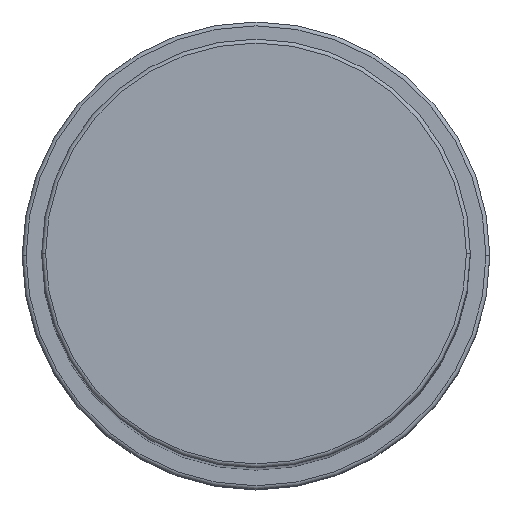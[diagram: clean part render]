
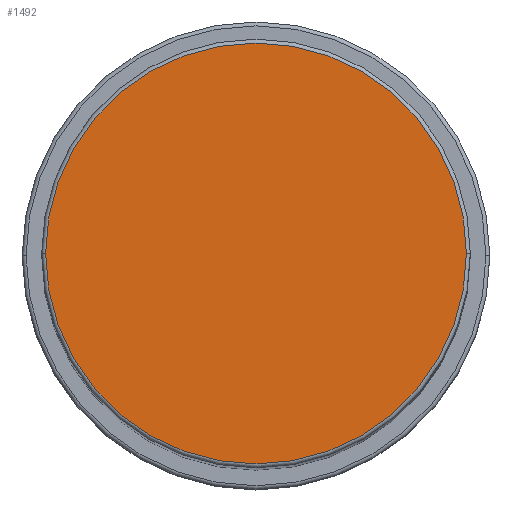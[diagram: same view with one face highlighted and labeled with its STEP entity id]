
A CAD part, top view. The second image highlights one B-rep face of the part: STEP entity #1492.
In plain terms, the highlighted planar face has unit normal (0, 0, 1).
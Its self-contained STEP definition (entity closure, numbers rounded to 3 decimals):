
#134 = DIRECTION ( 'NONE',  ( 0., 0., 1. ) ) ;
#205 = CARTESIAN_POINT ( 'NONE',  ( -27., 0., 183. ) ) ;
#271 = DIRECTION ( 'NONE',  ( 1., 0., 0. ) ) ;
#273 = CIRCLE ( 'NONE', #385, 27. ) ;
#298 = CARTESIAN_POINT ( 'NONE',  ( 0., 0., 183. ) ) ;
#330 = PLANE ( 'NONE',  #1299 ) ;
#385 = AXIS2_PLACEMENT_3D ( 'NONE', #518, #134, #271 ) ;
#518 = CARTESIAN_POINT ( 'NONE',  ( 0., 0., 183. ) ) ;
#545 = DIRECTION ( 'NONE',  ( 0., 0., 1. ) ) ;
#676 = DIRECTION ( 'NONE',  ( 1., 0., 0. ) ) ;
#921 = AXIS2_PLACEMENT_3D ( 'NONE', #1405, #1291, #1411 ) ;
#976 = EDGE_CURVE ( 'NONE', #1252, #1581, #1113, .T. ) ;
#1113 = CIRCLE ( 'NONE', #921, 27. ) ;
#1226 = FACE_OUTER_BOUND ( 'NONE', #1437, .T. ) ;
#1252 = VERTEX_POINT ( 'NONE', #1640 ) ;
#1275 = ORIENTED_EDGE ( 'NONE', *, *, #1393, .T. ) ;
#1291 = DIRECTION ( 'NONE',  ( 0., 0., 1. ) ) ;
#1299 = AXIS2_PLACEMENT_3D ( 'NONE', #298, #545, #676 ) ;
#1393 = EDGE_CURVE ( 'NONE', #1581, #1252, #273, .T. ) ;
#1405 = CARTESIAN_POINT ( 'NONE',  ( 0., 0., 183. ) ) ;
#1411 = DIRECTION ( 'NONE',  ( 1., 0., 0. ) ) ;
#1437 = EDGE_LOOP ( 'NONE', ( #1474, #1275 ) ) ;
#1474 = ORIENTED_EDGE ( 'NONE', *, *, #976, .T. ) ;
#1492 = ADVANCED_FACE ( 'NONE', ( #1226 ), #330, .T. ) ;
#1581 = VERTEX_POINT ( 'NONE', #205 ) ;
#1640 = CARTESIAN_POINT ( 'NONE',  ( 27., 0., 183. ) ) ;
